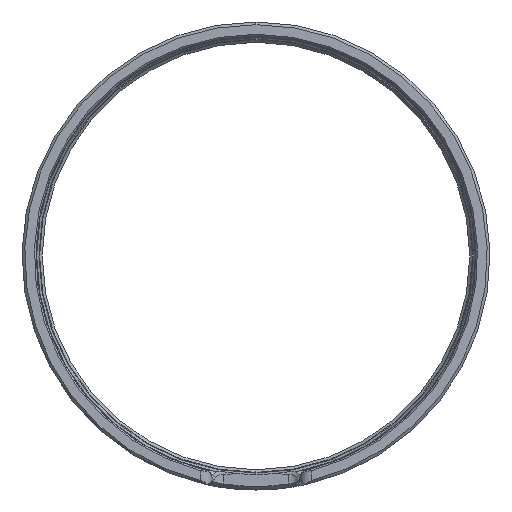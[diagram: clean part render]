
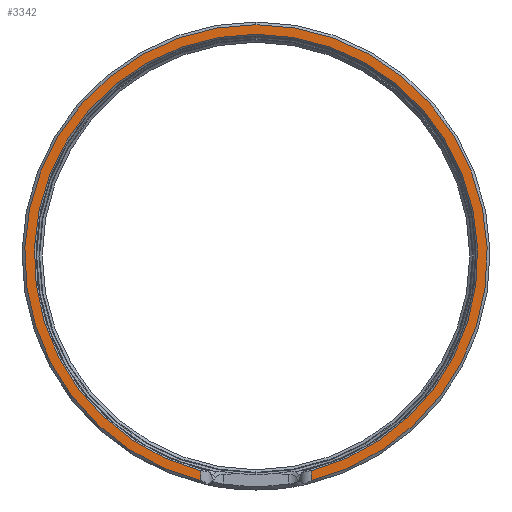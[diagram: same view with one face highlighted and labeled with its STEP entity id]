
A CAD part, left-side view. The second image highlights one B-rep face of the part: STEP entity #3342.
In plain terms, the highlighted planar face has unit normal (-1, 0, 0).
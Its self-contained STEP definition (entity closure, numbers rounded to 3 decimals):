
#187 = EDGE_CURVE ( 'NONE', #4674, #3235, #1308, .T. ) ;
#297 = DIRECTION ( 'NONE',  ( 0., 0., 1. ) ) ;
#423 = DIRECTION ( 'NONE',  ( 0., 0., 1. ) ) ;
#477 = CARTESIAN_POINT ( 'NONE',  ( -300., 0., 0. ) ) ;
#733 = VECTOR ( 'NONE', #3059, 1000. ) ;
#854 = ORIENTED_EDGE ( 'NONE', *, *, #5241, .T. ) ;
#883 = CARTESIAN_POINT ( 'NONE',  ( -300., 0., 0. ) ) ;
#1308 = LINE ( 'NONE', #1361, #733 ) ;
#1314 = EDGE_LOOP ( 'NONE', ( #1517, #854, #2111, #3844, #3328 ) ) ;
#1361 = CARTESIAN_POINT ( 'NONE',  ( -300., 10.2, -43.25 ) ) ;
#1450 = PLANE ( 'NONE',  #3822 ) ;
#1517 = ORIENTED_EDGE ( 'NONE', *, *, #2429, .F. ) ;
#1578 = VECTOR ( 'NONE', #2844, 1000. ) ;
#1617 = VERTEX_POINT ( 'NONE', #1931 ) ;
#1931 = CARTESIAN_POINT ( 'NONE',  ( -300., -10.2, -39.685 ) ) ;
#2111 = ORIENTED_EDGE ( 'NONE', *, *, #3912, .T. ) ;
#2293 = CARTESIAN_POINT ( 'NONE',  ( -300., 0., 42.75 ) ) ;
#2429 = EDGE_CURVE ( 'NONE', #2554, #1617, #5585, .T. ) ;
#2554 = VERTEX_POINT ( 'NONE', #5063 ) ;
#2844 = DIRECTION ( 'NONE',  ( 0., 0., 1. ) ) ;
#2865 = AXIS2_PLACEMENT_3D ( 'NONE', #2970, #4283, #297 ) ;
#2970 = CARTESIAN_POINT ( 'NONE',  ( -300., 0., 0. ) ) ;
#2982 = CIRCLE ( 'NONE', #3721, 42.75 ) ;
#3059 = DIRECTION ( 'NONE',  ( 0., 0., 1. ) ) ;
#3126 = DIRECTION ( 'NONE',  ( -1., 0., 0. ) ) ;
#3151 = DIRECTION ( 'NONE',  ( -1., 0., 0. ) ) ;
#3186 = VERTEX_POINT ( 'NONE', #2293 ) ;
#3235 = VERTEX_POINT ( 'NONE', #5429 ) ;
#3328 = ORIENTED_EDGE ( 'NONE', *, *, #4140, .F. ) ;
#3342 = ADVANCED_FACE ( 'NONE', ( #4549 ), #1450, .T. ) ;
#3721 = AXIS2_PLACEMENT_3D ( 'NONE', #883, #3126, #423 ) ;
#3822 = AXIS2_PLACEMENT_3D ( 'NONE', #477, #3151, #4052 ) ;
#3830 = CARTESIAN_POINT ( 'NONE',  ( -300., 0., 0. ) ) ;
#3844 = ORIENTED_EDGE ( 'NONE', *, *, #187, .T. ) ;
#3912 = EDGE_CURVE ( 'NONE', #3186, #4674, #2982, .T. ) ;
#4052 = DIRECTION ( 'NONE',  ( 0., 0., -1. ) ) ;
#4140 = EDGE_CURVE ( 'NONE', #1617, #3235, #4443, .T. ) ;
#4268 = CIRCLE ( 'NONE', #2865, 42.75 ) ;
#4283 = DIRECTION ( 'NONE',  ( -1., 0., 0. ) ) ;
#4443 = CIRCLE ( 'NONE', #4538, 40.975 ) ;
#4538 = AXIS2_PLACEMENT_3D ( 'NONE', #3830, #4638, #4580 ) ;
#4549 = FACE_OUTER_BOUND ( 'NONE', #1314, .T. ) ;
#4580 = DIRECTION ( 'NONE',  ( 0., 0., 1. ) ) ;
#4618 = CARTESIAN_POINT ( 'NONE',  ( -300., -10.2, -43.25 ) ) ;
#4638 = DIRECTION ( 'NONE',  ( -1., 0., 0. ) ) ;
#4674 = VERTEX_POINT ( 'NONE', #5237 ) ;
#5063 = CARTESIAN_POINT ( 'NONE',  ( -300., -10.2, -41.515 ) ) ;
#5237 = CARTESIAN_POINT ( 'NONE',  ( -300., 10.2, -41.515 ) ) ;
#5241 = EDGE_CURVE ( 'NONE', #2554, #3186, #4268, .T. ) ;
#5429 = CARTESIAN_POINT ( 'NONE',  ( -300., 10.2, -39.685 ) ) ;
#5585 = LINE ( 'NONE', #4618, #1578 ) ;
